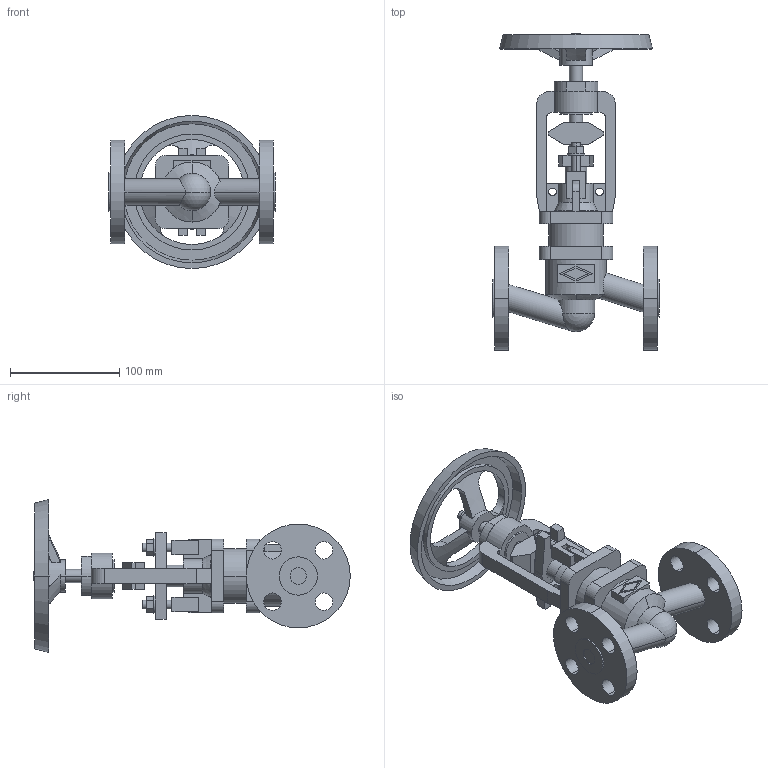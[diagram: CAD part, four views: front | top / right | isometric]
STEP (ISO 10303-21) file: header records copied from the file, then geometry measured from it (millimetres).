
FILE_DESCRIPTION(('OneSpaceDesigner STEP Export'),'2;1');
FILE_NAME('c000004211.stp','2010-04-30T 9:44:38',(''),(''),'OneSpace Designer STEP processor for AP214 (Solid Model)','OneSpace Modeling 15.50B 03-Nov-2007 (C) CoCreate Software GmbH','');
FILE_SCHEMA(('AUTOMOTIVE_DESIGN { 1 0 10303 214 1 1 1 1 }'));
Length unit declared in the file: millimetre
Products named in the file (1): 1
Bounding box: 152 x 289.4 x 140 mm (x, y, z)
Volume: 696157.7 mm3; surface area: 149225 mm2
Topology: 1 solids, 1 shells, 282 faces, 737 edges, 482 vertices
Faces by surface type: plane 149, cylinder 107, cone 20, torus 4, sphere 2
Entity records: 10761 total; most frequent: CARTESIAN_POINT 1898, ORIENTED_EDGE 1470, DIRECTION 1227, EDGE_CURVE 735, VERTEX_POINT 482, VECTOR 435, LINE 435, AXIS2_PLACEMENT_3D 396
